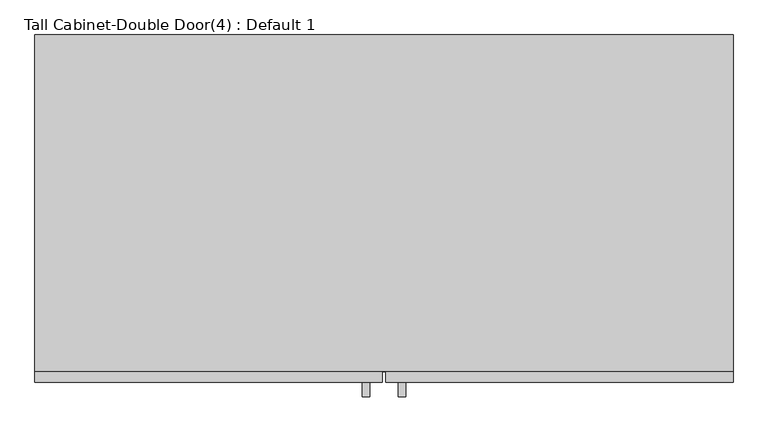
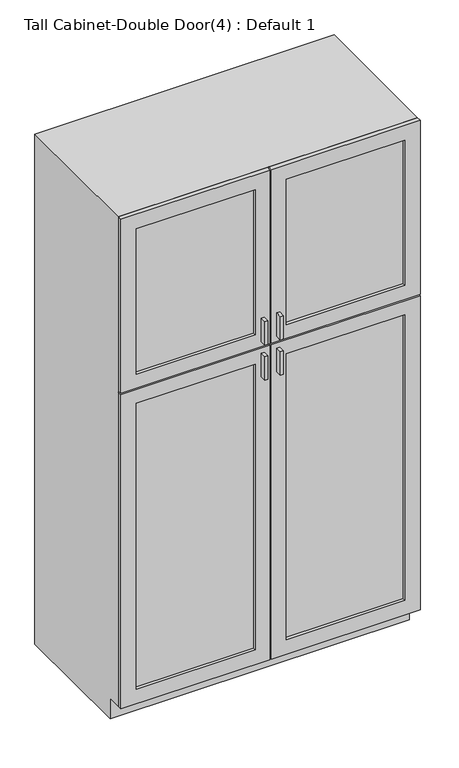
"""IFC4 building model written with IfcOpenShell, lengths in millimetres: furniture geometry, Tall Cabinet-Double Door(4) : Default 1."""

import ifcopenshell
import ifcopenshell.guid

model = None  # the IFC model being written
_history = None  # IfcOwnerHistory: only IFC2X3 demands one
_inside = {}  # id of a spatial element -> (the spatial element, [elements in it])
_under = {}  # id of a project, library or spatial element -> (it, [spatial elements below it])
_declared = {}  # id of a project -> (the project, [libraries it declares])
_typed = {}  # id of a type object -> (the type object, [elements of that type])
_made_of = {}  # id of a material, layer set ... -> (it, [elements and type objects made of it])


def new_model(schema):
    """Start an empty IFC model of exactly this schema.

    Asked for "IFC4X3", IfcOpenShell would pick the latest addendum, in which some entities
    have other attributes; the version numbers below select the first issue.
    IFC2X3 requires an IfcOwnerHistory on every rooted entity: one is made here for all.
    """
    global model, _history
    if schema == "IFC4X3":
        model = ifcopenshell.file(schema_version=(4, 3, 0, 0))
    else:
        model = ifcopenshell.file(schema=schema)
    _inside.clear()
    _under.clear()
    _declared.clear()
    _typed.clear()
    _made_of.clear()
    _history = None
    if model.schema == "IFC2X3":
        org = make("IfcOrganization", Name="unknown")
        user = make(
            "IfcPersonAndOrganization",
            ThePerson=make("IfcPerson", FamilyName="unknown"),
            TheOrganization=org,
        )
        app = make(
            "IfcApplication",
            ApplicationDeveloper=org,
            Version="unknown",
            ApplicationFullName="unknown",
            ApplicationIdentifier="unknown",
        )
        _history = make(
            "IfcOwnerHistory",
            OwningUser=user,
            OwningApplication=app,
            ChangeAction="ADDED",
            CreationDate=0,
        )
    return model


def make(cls, **values):
    """One entity of the class cls with the attributes given. An attribute that is None is left unset."""
    return model.create_entity(
        cls, **{name: value for name, value in values.items() if value is not None}
    )


def rooted(cls, **values):
    """An entity with a GlobalId (a new one), such as an element, a storey or a relation."""
    return make(cls, GlobalId=ifcopenshell.guid.new(), OwnerHistory=_history, **values)


def si_unit(unit_type, name, prefix=None):
    """IfcSIUnit, for example si_unit("LENGTHUNIT", "METRE", prefix="MILLI")."""
    return make("IfcSIUnit", UnitType=unit_type, Prefix=prefix, Name=name)


def assignment(units):
    """IfcUnitAssignment: the units of a project."""
    return None if units is None else make("IfcUnitAssignment", Units=units)


def point(xyz):
    """IfcCartesianPoint."""
    return None if xyz is None else make("IfcCartesianPoint", Coordinates=xyz)


def direction(xyz):
    """IfcDirection."""
    return None if xyz is None else make("IfcDirection", DirectionRatios=xyz)


def frame(location, z_axis=None, x_axis=None):
    """IfcAxis2Placement3D, a coordinate frame: its origin and axes. An axis left out is left unset."""
    return make(
        "IfcAxis2Placement3D",
        Location=point(location),
        Axis=direction(z_axis),
        RefDirection=direction(x_axis),
    )


def origin():
    """The frame at (0, 0, 0) with its axes left unset."""
    return frame((0.0, 0.0, 0.0))


def place(relative_to, where):
    """IfcLocalPlacement: puts the frame where relative to a parent placement (None: the world)."""
    return make(
        "IfcLocalPlacement", PlacementRelTo=relative_to, RelativePlacement=where
    )


def context(
    kind, dimensions, precision=None, world=None, true_north=None, identifier=None
):
    """IfcGeometricRepresentationContext, for example the 3D "Model" context."""
    return make(
        "IfcGeometricRepresentationContext",
        ContextIdentifier=identifier,
        ContextType=kind,
        CoordinateSpaceDimension=dimensions,
        Precision=precision,
        WorldCoordinateSystem=world,
        TrueNorth=true_north,
    )


def project(units=None, contexts=None):
    """IfcProject with its units and contexts."""
    return rooted(
        "IfcProject",
        Name="project",
        RepresentationContexts=contexts,
        UnitsInContext=assignment(units),
    )


def spatial(cls, under=None, at=None, **own):
    """A site, building, storey or space (cls), placed at a placement, below another one or the project."""
    s = rooted(cls, ObjectPlacement=at, **own)
    if under is not None:
        _under.setdefault(under.id(), (under, []))[1].append(s)
    return s


def polyline(points):
    """IfcPolyline through the points."""
    return make("IfcPolyline", Points=[point(p) for p in points])


def outline(outer, holes=None, kind="AREA"):
    """IfcArbitraryClosedProfileDef: a profile drawn as a closed curve; with holes, ...WithVoids."""
    if holes is None:
        return make("IfcArbitraryClosedProfileDef", ProfileType=kind, OuterCurve=outer)
    return make(
        "IfcArbitraryProfileDefWithVoids",
        ProfileType=kind,
        OuterCurve=outer,
        InnerCurves=holes,
    )


def extrude(swept, where, along, depth):
    """IfcExtrudedAreaSolid: the profile swept, set in the frame where, extruded along a direction by depth."""
    return make(
        "IfcExtrudedAreaSolid",
        SweptArea=swept,
        Position=where,
        ExtrudedDirection=direction(along),
        Depth=depth,
    )


def faces_of(points, faces, orient=None, outer=None):
    """IfcFace entities. A face is a list of loops; a loop is a list of indices into points, from 0.

    orient and outer hold one flag for each loop. By default every Orientation is true, the
    first loop of a face is its IfcFaceOuterBound and the others are IfcFaceBound.
    """
    made = []
    for i, loops in enumerate(faces):
        bounds = []
        for j, loop in enumerate(loops):
            is_outer = j == 0 if outer is None else outer[i][j]
            bounds.append(
                make(
                    "IfcFaceOuterBound" if is_outer else "IfcFaceBound",
                    Bound=make("IfcPolyLoop", Polygon=[points[k] for k in loop]),
                    Orientation=True if orient is None else orient[i][j],
                )
            )
        made.append(make("IfcFace", Bounds=bounds))
    return made


def faceted_brep(points, faces, orient=None, outer=None, voids=None):
    """IfcFacetedBrep: a solid bounded by flat faces; with voids (closed shells), ...WithVoids."""
    shared = [point(p) for p in points]
    hull = make("IfcClosedShell", CfsFaces=faces_of(shared, faces, orient, outer))
    if voids is None:
        return make("IfcFacetedBrep", Outer=hull)
    return make(
        "IfcFacetedBrepWithVoids",
        Outer=hull,
        Voids=[
            make(cls, CfsFaces=faces_of(shared, fs, o, b)) for cls, fs, o, b in voids
        ],
    )


def shape(context_of_items, identifier, shape_type, items):
    """IfcShapeRepresentation: the items that make up one representation, for example the "Body"."""
    return make(
        "IfcShapeRepresentation",
        ContextOfItems=context_of_items,
        RepresentationIdentifier=identifier,
        RepresentationType=shape_type,
        Items=items,
    )


def source(mapping_origin, context_of_items, identifier, shape_type, items):
    """IfcRepresentationMap: a shape defined once, which mapped items show again and again."""
    return make(
        "IfcRepresentationMap",
        MappingOrigin=mapping_origin,
        MappedRepresentation=shape(context_of_items, identifier, shape_type, items),
    )


def transform(
    local_origin,
    x_axis=None,
    y_axis=None,
    z_axis=None,
    scale=None,
    scale2=None,
    scale3=None,
    uniform=True,
):
    """IfcCartesianTransformationOperator3D, or its non-uniform kind. x_axis, y_axis, z_axis: its Axis1, 2, 3."""
    if uniform:
        return make(
            "IfcCartesianTransformationOperator3D",
            Axis1=direction(x_axis),
            Axis2=direction(y_axis),
            LocalOrigin=point(local_origin),
            Scale=scale,
            Axis3=direction(z_axis),
        )
    return make(
        "IfcCartesianTransformationOperator3DnonUniform",
        Axis1=direction(x_axis),
        Axis2=direction(y_axis),
        LocalOrigin=point(local_origin),
        Scale=scale,
        Axis3=direction(z_axis),
        Scale2=scale2,
        Scale3=scale3,
    )


def mapped(mapping_source, mapping_target):
    """IfcMappedItem: shows the shape of a source again, moved by a transform."""
    return make(
        "IfcMappedItem", MappingSource=mapping_source, MappingTarget=mapping_target
    )


def made_of(thing, what):
    """Note that an element or type object is made of a material, layer set ...; save() writes the relation."""
    if what is not None:
        _made_of.setdefault(what.id(), (what, []))[1].append(thing)
    return thing


def element(
    cls,
    number,
    at=None,
    inside=None,
    cuts=None,
    type_object=None,
    material=None,
    context=None,
    identifier="Body",
    shape_type=None,
    held_by="IfcProductDefinitionShape",
    body=None,
    shapes=None,
    **own,
):
    """One element of the class cls, such as IfcWall. Its Tag is "e" and its number.

    at: its placement. inside: the storey or other place that contains it. cuts: it is an
    opening in that element (IfcRelVoidsElement). A single representation is given by context,
    identifier, shape_type and body (its items); several are given by shapes. held_by: the class
    of the entity that holds the representations. save() writes the other relations.
    """
    e = rooted(cls, Tag="e%d" % number, ObjectPlacement=at, **own)
    if body is not None:
        shapes = [shape(context, identifier, shape_type, body)]
    if shapes is not None:
        e.Representation = make(held_by, Representations=shapes)
    if inside is not None:
        _inside.setdefault(inside.id(), (inside, []))[1].append(e)
    if cuts is not None:
        rooted(
            "IfcRelVoidsElement", RelatingBuildingElement=cuts, RelatedOpeningElement=e
        )
    if type_object is not None:
        _typed.setdefault(type_object.id(), (type_object, []))[1].append(e)
    return made_of(e, material)


def aggregate(whole, parts):
    """IfcRelAggregates: a whole, such as a stair, and the parts it consists of."""
    return rooted("IfcRelAggregates", RelatingObject=whole, RelatedObjects=parts)


def save(model, path):
    """Write the relations noted so far, then the file.

    IfcRelAggregates (storeys below a building ...), IfcRelContainedInSpatialStructure (elements
    in a storey), IfcRelDefinesByType, IfcRelAssociatesMaterial and IfcRelDeclares: one each for
    every whole, place, type object, material and project.
    """
    for whole, parts in _under.values():
        aggregate(whole, parts)
    for where, things in _inside.values():
        rooted(
            "IfcRelContainedInSpatialStructure",
            RelatedElements=things,
            RelatingStructure=where,
        )
    for kind, things in _typed.values():
        rooted("IfcRelDefinesByType", RelatedObjects=things, RelatingType=kind)
    for what, things in _made_of.values():
        rooted("IfcRelAssociatesMaterial", RelatedObjects=things, RelatingMaterial=what)
    for by, libraries in _declared.values():
        rooted("IfcRelDeclares", RelatingContext=by, RelatedDefinitions=libraries)
    model.write(path)


def tall_cabinet_double_door_4_default_1_916294eb(model_context):
    return source(origin(), model_context, "Body", "SolidModel", [
        faceted_brep([(631.5127049, -590.55, 90.4875), (631.5127049, -590.55, 2209.8), (-594.0372951, -590.55, 2209.8), (-594.0372951, -590.55, 90.4875), (612.4627049, -590.55, 2190.75), (612.4627049, -590.55, 109.5375), (-574.9872951, -590.55, 109.5375), (-574.9872951, -590.55, 2190.75), (-594.0372951, 0.0, 2209.8), (631.5127049, 0.0, 2209.8), (631.5127049, 0.0, 1.5875), (-594.0372951, 0.0, 1.5875), (612.4627049, 0.0, 2190.75), (-574.9872951, 0.0, 2190.75), (-574.9872951, 0.0, 109.5375), (612.4627049, 0.0, 109.5375), (631.5127049, -533.4, 90.4875), (631.5127049, -533.4, 1.5875), (-594.0372951, -533.4, 1.5875), (-594.0372951, -533.4, 90.4875)], [[[0, 1, 2, 3], [4, 5, 6, 7]], [[8, 9, 10, 11], [12, 13, 14, 15]], [[1, 0, 16, 17, 10, 9]], [[2, 1, 9, 8]], [[3, 2, 8, 11, 18, 19]], [[0, 3, 19, 16]], [[5, 4, 12, 15]], [[6, 5, 15, 14]], [[7, 6, 14, 13]], [[4, 7, 13, 12]], [[10, 17, 18, 11]], [[18, 17, 16, 19]]]),
        extrude(outline(polyline([(-6.6622951, -635.0), (-19.1945267, -635.0), (-19.1945267, -609.6), (-6.6622951, -609.6), (-6.6622951, -635.0)])), frame((0.0, 0.0, 1479.7480367), z_axis=(0.0, 0.0, 1.0), x_axis=(1.0, 0.0, 0.0)), (0.0, 0.0, 1.0), 101.6),
        extrude(outline(polyline([(56.6699365, -635.0), (44.1377049, -635.0), (44.1377049, -609.6), (56.6699365, -609.6), (56.6699365, -635.0)])), frame((0.0, 0.0, 1479.7480367), z_axis=(0.0, 0.0, 1.0), x_axis=(1.0, 0.0, 0.0)), (0.0, 0.0, 1.0), 101.6),
        extrude(outline(polyline([(-6.6622951, -635.0), (-19.1945267, -635.0), (-19.1945267, -609.6), (-6.6622951, -609.6), (-6.6622951, -635.0)])), frame((0.0, 0.0, 1327.3480367), z_axis=(0.0, 0.0, 1.0), x_axis=(1.0, 0.0, 0.0)), (0.0, 0.0, 1.0), 101.6),
        extrude(outline(polyline([(56.6699365, -635.0), (44.1377049, -635.0), (44.1377049, -609.6), (56.6699365, -609.6), (56.6699365, -635.0)])), frame((0.0, 0.0, 1327.3480367), z_axis=(0.0, 0.0, 1.0), x_axis=(1.0, 0.0, 0.0)), (0.0, 0.0, 1.0), 101.6),
        extrude(outline(polyline([(-44.7622951, -596.9), (-530.5372951, -596.9), (-530.5372951, -590.55), (-44.7622951, -590.55), (-44.7622951, -596.9)])), frame((0.0, 0.0, 1517.8480367), z_axis=(0.0, 0.0, 1.0), x_axis=(1.0, 0.0, 0.0)), (0.0, 0.0, 1.0), 628.4519633),
        extrude(outline(polyline([(568.0127049, -596.9), (82.2377049, -596.9), (82.2377049, -590.55), (568.0127049, -590.55), (568.0127049, -596.9)])), frame((0.0, 0.0, 1517.8480367), z_axis=(0.0, 0.0, 1.0), x_axis=(1.0, 0.0, 0.0)), (0.0, 0.0, 1.0), 628.4519633),
        extrude(outline(polyline([(-44.7622951, -596.9), (-530.5372951, -596.9), (-530.5372951, -590.55), (-44.7622951, -590.55), (-44.7622951, -596.9)])), frame((0.0, 0.0, 153.9875), z_axis=(0.0, 0.0, 1.0), x_axis=(1.0, 0.0, 0.0)), (0.0, 0.0, 1.0), 1236.8605367),
        extrude(outline(polyline([(568.0127049, -596.9), (82.2377049, -596.9), (82.2377049, -590.55), (568.0127049, -590.55), (568.0127049, -596.9)])), frame((0.0, 0.0, 153.9875), z_axis=(0.0, 0.0, 1.0), x_axis=(1.0, 0.0, 0.0)), (0.0, 0.0, 1.0), 1236.8605367),
        extrude(outline(polyline([(2209.8, 15.5627049), (2209.8, -594.0372951), (1457.5230367, -594.0372951), (1457.5230367, 15.5627049), (2209.8, 15.5627049)]), holes=[polyline([(2146.3, -44.7622951), (1517.8480367, -44.7622951), (1517.8480367, -530.5372951), (2146.3, -530.5372951), (2146.3, -44.7622951)])]), frame((0.0, -609.6, 0.0), z_axis=(0.0, 1.0, 0.0), x_axis=(0.0, 0.0, 1.0)), (0.0, 0.0, 1.0), 19.05),
        extrude(outline(polyline([(2209.8, 21.9127049), (1457.5230367, 21.9127049), (1457.5230367, 631.5127049), (2209.8, 631.5127049), (2209.8, 21.9127049)]), holes=[polyline([(2146.3, 568.0127049), (1517.8480367, 568.0127049), (1517.8480367, 82.2377049), (2146.3, 82.2377049), (2146.3, 568.0127049)])]), frame((0.0, -609.6, 0.0), z_axis=(0.0, 1.0, 0.0), x_axis=(0.0, 0.0, 1.0)), (0.0, 0.0, 1.0), 19.05),
        extrude(outline(polyline([(90.4875, 21.9127049), (90.4875, 631.5127049), (1451.1730367, 631.5127049), (1451.1730367, 21.9127049), (90.4875, 21.9127049)]), holes=[polyline([(1390.8480367, 82.2377049), (1390.8480367, 568.0127049), (153.9875, 568.0127049), (153.9875, 82.2377049), (1390.8480367, 82.2377049)])]), frame((0.0, -609.6, 0.0), z_axis=(0.0, 1.0, 0.0), x_axis=(0.0, 0.0, 1.0)), (0.0, 0.0, 1.0), 19.05),
        extrude(outline(polyline([(90.4875, 15.5627049), (1451.1730367, 15.5627049), (1451.1730367, -594.0372951), (90.4875, -594.0372951), (90.4875, 15.5627049)]), holes=[polyline([(1390.8480367, -44.7622951), (153.9875, -44.7622951), (153.9875, -530.5372951), (1390.8480367, -530.5372951), (1390.8480367, -44.7622951)])]), frame((0.0, -609.6, 0.0), z_axis=(0.0, 1.0, 0.0), x_axis=(0.0, 0.0, 1.0)), (0.0, 0.0, 1.0), 19.05),
        extrude(outline(polyline([(612.4627049, -19.05), (-574.9872951, -19.05), (-574.9872951, 0.0), (612.4627049, 0.0), (612.4627049, -19.05)])), frame((0.0, 0.0, 109.5375), z_axis=(0.0, 0.0, 1.0), x_axis=(1.0, 0.0, 0.0)), (0.0, 0.0, 1.0), 2081.2125),
    ])


if __name__ == "__main__":
    model = new_model("IFC4")
    model_context = context("Model", 3, world=origin())
    ifc_project = project(units=[si_unit("LENGTHUNIT", "METRE", prefix="MILLI")], contexts=[model_context])
    site = spatial("IfcSite", under=ifc_project)
    building = spatial("IfcBuilding", under=site)
    placement = place(None, origin())
    tall_cabinet_double_door_4_default_1_shape = tall_cabinet_double_door_4_default_1_916294eb(model_context)
    element("IfcFurniture", 1, ObjectType="Tall Cabinet-Double Door(4) : Default 1", at=placement, inside=building, context=model_context, shape_type="MappedRepresentation", body=[
        mapped(tall_cabinet_double_door_4_default_1_shape, transform((0.0, 0.0, 0.0), x_axis=(1.0, 0.0, 0.0), y_axis=(0.0, 1.0, 0.0), z_axis=(0.0, 0.0, 1.0))),
    ])
    save(model, "model.ifc")
